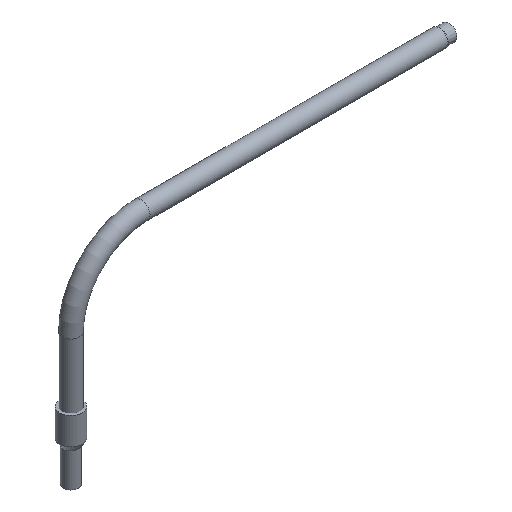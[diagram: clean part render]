
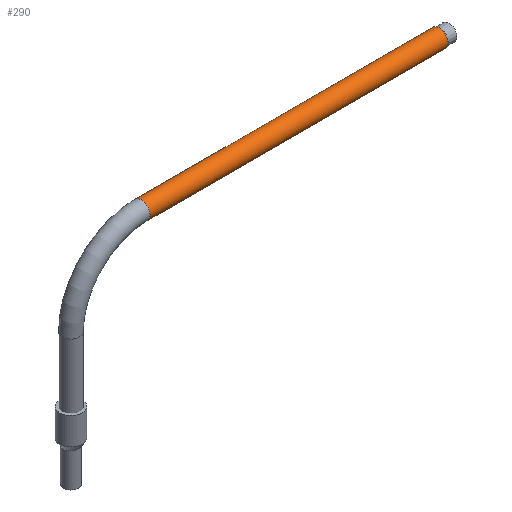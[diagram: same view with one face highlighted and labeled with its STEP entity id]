
A CAD part, isometric view. The second image highlights one B-rep face of the part: STEP entity #290.
In plain terms, the highlighted cylindrical face has radius 18.65 mm (diameter 37.3 mm), a full revolution.
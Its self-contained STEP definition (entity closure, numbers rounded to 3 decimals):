
#40=ORIENTED_EDGE('',*,*,#76,.T.);
#41=ORIENTED_EDGE('',*,*,#77,.T.);
#76=EDGE_CURVE('',#94,#94,#112,.T.);
#77=EDGE_CURVE('',#95,#95,#113,.F.);
#94=VERTEX_POINT('',#438);
#95=VERTEX_POINT('',#440);
#112=CIRCLE('',#320,18.65);
#113=CIRCLE('',#321,18.65);
#130=EDGE_LOOP('',(#40));
#131=EDGE_LOOP('',(#41));
#166=FACE_BOUND('',#130,.T.);
#167=FACE_BOUND('',#131,.T.);
#202=CYLINDRICAL_SURFACE('',#319,18.65);
#290=ADVANCED_FACE('',(#166,#167),#202,.T.);
#319=AXIS2_PLACEMENT_3D('',#436,#359,#360);
#320=AXIS2_PLACEMENT_3D('',#437,#361,#362);
#321=AXIS2_PLACEMENT_3D('',#439,#363,#364);
#359=DIRECTION('',(1.,0.,0.));
#360=DIRECTION('',(0.,0.,-1.));
#361=DIRECTION('',(-1.,0.,0.));
#362=DIRECTION('',(0.,0.,1.));
#363=DIRECTION('',(-1.,0.,0.));
#364=DIRECTION('',(0.,0.,-1.));
#436=CARTESIAN_POINT('',(168.65,0.,338.35));
#437=CARTESIAN_POINT('',(803.25,0.,338.35));
#438=CARTESIAN_POINT('',(803.25,0.,357.));
#439=CARTESIAN_POINT('',(168.65,0.,338.35));
#440=CARTESIAN_POINT('',(168.65,0.,319.7));
